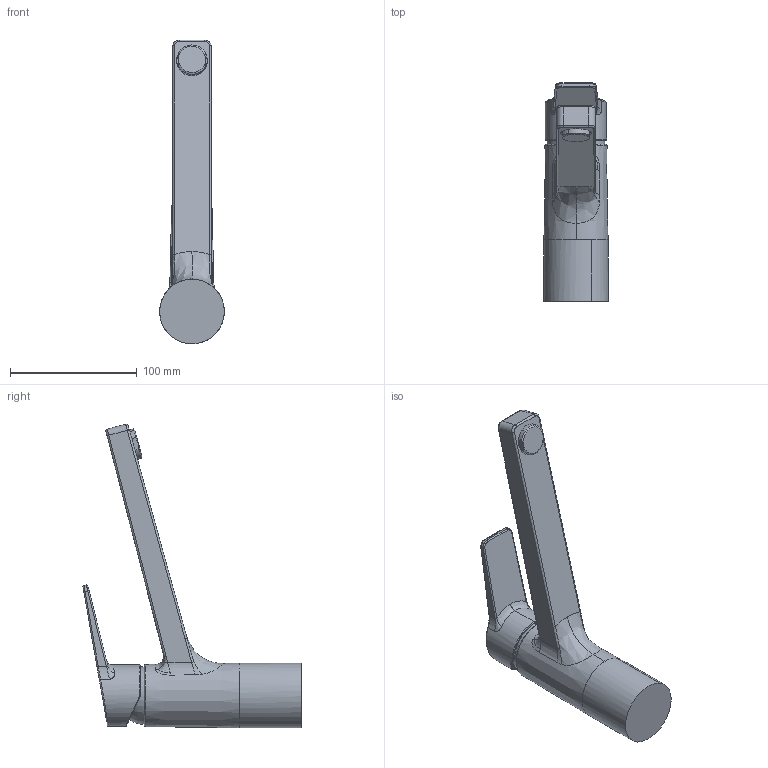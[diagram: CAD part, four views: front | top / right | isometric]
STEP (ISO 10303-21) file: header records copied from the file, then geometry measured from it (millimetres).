
FILE_DESCRIPTION (( 'STEP AP203' ), '1' );
FILE_NAME ('3820F(2016)+09142283.STEP', '2018-07-31T06:52:05', ( '' ), ( '' ), 'SwSTEP 2.0', 'SolidWorks 2016', '' );
FILE_SCHEMA (( 'CONFIG_CONTROL_DESIGN' ));
Length unit declared in the file: millimetre
Products named in the file (1): 3820F(2016)+09142283
Bounding box: 50.99 x 172.25 x 239.85 mm (x, y, z)
Volume: 442009 mm3; surface area: 53837.1 mm2
Topology: 1 solids, 1 shells, 101 faces, 240 edges, 146 vertices
Faces by surface type: bspline 38, cylinder 30, plane 20, cone 8, torus 5
Entity records: 6259 total; most frequent: CARTESIAN_POINT 4215, ORIENTED_EDGE 480, DIRECTION 275, EDGE_CURVE 240, VERTEX_POINT 146, B_SPLINE_CURVE_WITH_KNOTS 128, EDGE_LOOP 106, AXIS2_PLACEMENT_3D 103
